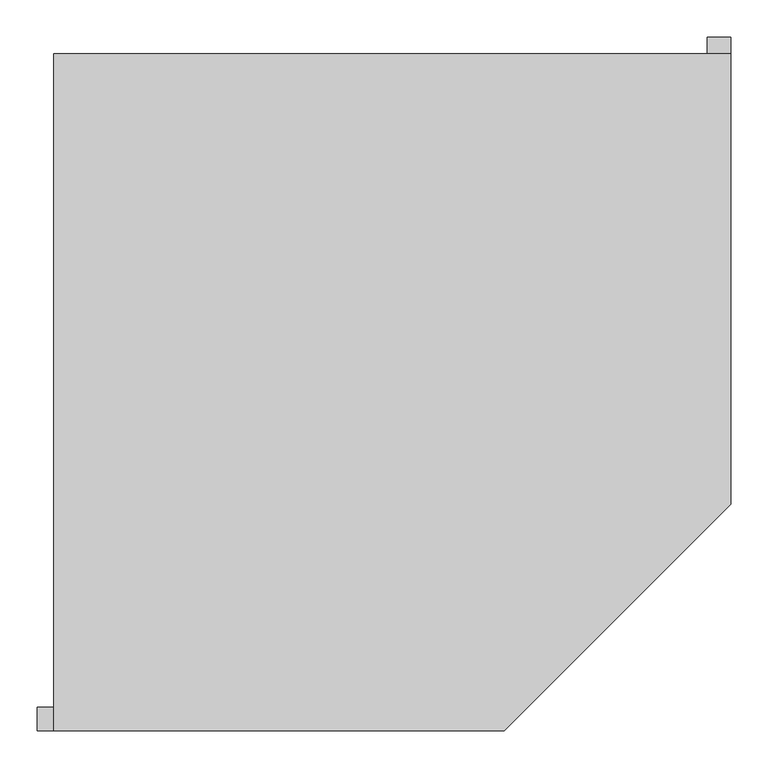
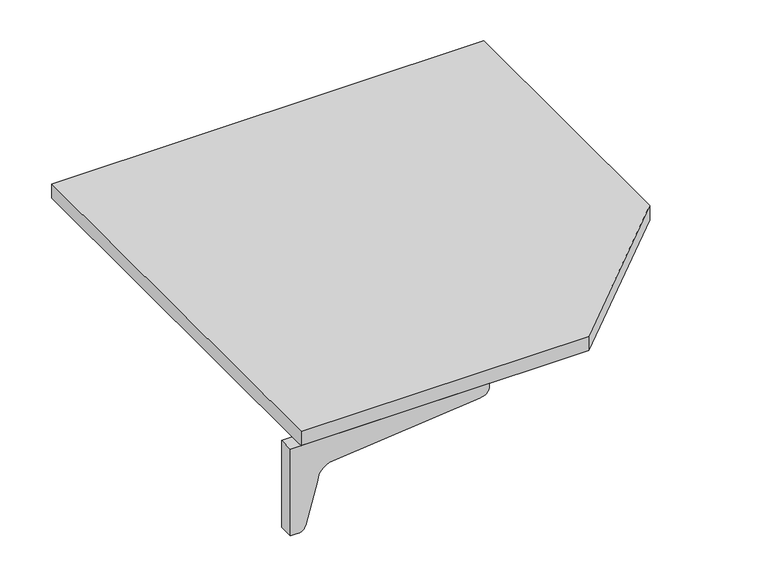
"""IFC4 building model written with IfcOpenShell, lengths in millimetres: furniture geometry."""

from ifc_helpers import new_model, si_unit, point, frame, frame_2d, origin, place, context, project, spatial, polyline, circle_curve, trimmed, segment, composite_curve, outline, extrude, source, transform, mapped, element, save


def furniture_cadd35e2(model_context):
    return source(origin(), model_context, "Body", "SweptSolid", [
        extrude(outline(composite_curve([segment(polyline([(784.225, 704.85), (784.225, 511.175), (771.525, 511.175)]), True, "CONTINUOUS"), segment(trimmed(circle_curve(frame_2d((769.2081081, 528.3371622)), 17.3178462), [point((771.525, 511.175))], [point((752.475, 523.875))], False, "CARTESIAN"), True, "CONTINUOUS"), segment(polyline([(752.475, 523.875), (727.075, 615.95)]), True, "CONTINUOUS"), segment(trimmed(circle_curve(frame_2d((691.7170455, 612.3420455)), 35.5415572), [point((727.075, 615.95))], [point((695.325, 647.7))], True, "CARTESIAN"), True, "CONTINUOUS"), segment(polyline([(695.325, 647.7), (384.175, 679.45)]), True, "CONTINUOUS"), segment(trimmed(circle_curve(frame_2d((384.175, 698.5)), 19.05), [point((384.175, 679.45))], [point((365.125, 698.5))], False, "CARTESIAN"), True, "CONTINUOUS"), segment(polyline([(365.125, 698.5), (365.125, 704.85), (784.225, 704.85)]), True, "CONTINUOUS")], self_intersect=False)), frame((139.7, 0.0, 0.0), z_axis=(1.0, 0.0, 0.0), x_axis=(0.0, 1.0, 0.0)), (0.0, 0.0, 1.0), 31.75),
        extrude(outline(composite_curve([segment(polyline([(704.85, -762.0), (511.175, -762.0), (511.175, -749.3)]), True, "CONTINUOUS"), segment(trimmed(circle_curve(frame_2d((528.3371622, -746.9831081)), 17.3178462), [point((511.175, -749.3))], [point((523.875, -730.25))], False, "CARTESIAN"), True, "CONTINUOUS"), segment(polyline([(523.875, -730.25), (615.95, -704.85)]), True, "CONTINUOUS"), segment(trimmed(circle_curve(frame_2d((612.3420455, -669.4920455)), 35.5415572), [point((615.95, -704.85))], [point((647.7, -673.1))], True, "CARTESIAN"), True, "CONTINUOUS"), segment(polyline([(647.7, -673.1), (679.45, -361.95)]), True, "CONTINUOUS"), segment(trimmed(circle_curve(frame_2d((698.5, -361.95)), 19.05), [point((679.45, -361.95))], [point((698.5, -342.9))], False, "CARTESIAN"), True, "CONTINUOUS"), segment(polyline([(698.5, -342.9), (704.85, -342.9), (704.85, -762.0)]), True, "CONTINUOUS")], self_intersect=False)), frame((0.0, -149.225, 0.0), z_axis=(0.0, 1.0, 0.0), x_axis=(0.0, 0.0, 1.0)), (0.0, 0.0, 1.0), 31.75),
        extrude(outline(polyline([(171.45, 762.0), (171.45, 155.575), (-133.35, -149.225), (-739.775, -149.225), (-739.775, 762.0), (171.45, 762.0)])), frame((0.0, 0.0, 704.85), z_axis=(0.0, 0.0, 1.0), x_axis=(1.0, 0.0, 0.0)), (0.0, 0.0, 1.0), 31.75),
    ])


if __name__ == "__main__":
    model = new_model("IFC4")
    model_context = context("Model", 3, world=origin())
    ifc_project = project(units=[si_unit("LENGTHUNIT", "METRE", prefix="MILLI")], contexts=[model_context])
    site = spatial("IfcSite", under=ifc_project)
    building = spatial("IfcBuilding", under=site)
    placement = place(None, origin())
    furniture_shape = furniture_cadd35e2(model_context)
    element("IfcFurniture", 1, ObjectType="HermanMiller_ActionOffice_A2332_Sq-EdgeCornerWorkSurface : 24\"D x 36\"W", at=placement, inside=building, context=model_context, shape_type="MappedRepresentation", body=[
        mapped(furniture_shape, transform((0.0, 0.0, 0.0), x_axis=(1.0, 0.0, 0.0), y_axis=(0.0, 1.0, 0.0), z_axis=(0.0, 0.0, 1.0))),
    ])
    save(model, "model.ifc")
